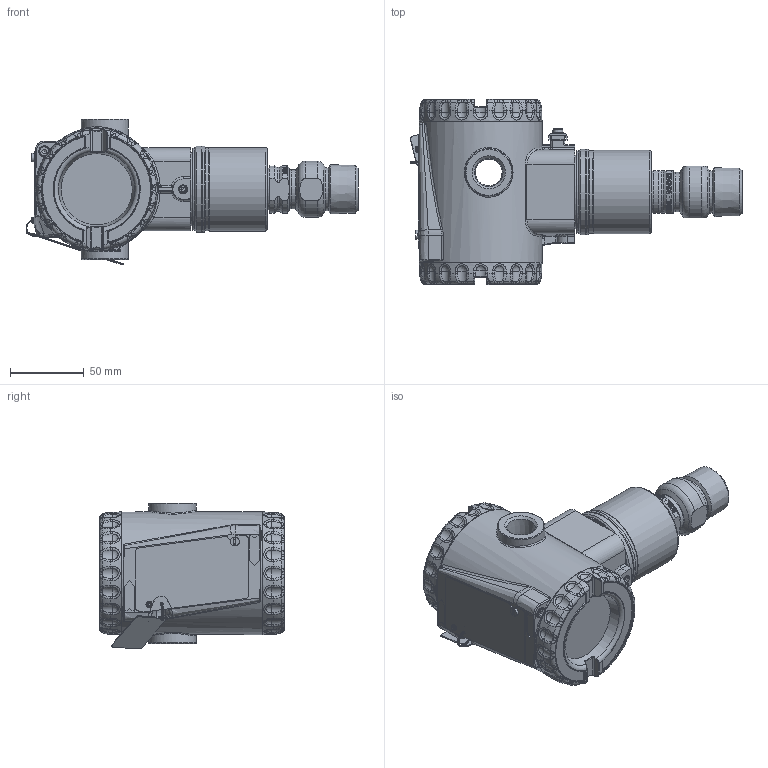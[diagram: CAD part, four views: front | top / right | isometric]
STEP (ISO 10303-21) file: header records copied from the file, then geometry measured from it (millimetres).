
FILE_DESCRIPTION(/* description */ (''),/* implementation_level */ '2;1');
FILE_NAME(/* name */ 'F:\Area\Desenvolvimento_2\Projects\Sensor\projetos\LD400-3d\dimensionais 3D clientes\LD400G\LD400G4 1 NPT SELADO.stp',/* time_stamp */ '2023-02-02T16:44:38-03:00',/* author */ ('inventor02'),/* organization */ (''),/* preprocessor_version */ 'ST-DEVELOPER v17',/* originating_system */ 'Autodesk Inventor 2019',/* authorisation */ '');
FILE_SCHEMA (('CONFIG_CONTROL_DESIGN'));
Products named in the file (28): LD400G4 1 NPT SELADO; SENSOR 29X FX4 1NPT macho selado; 101-B-5896-01 capa fx4; 101-C-3677-06 conexao ao processo 1-2NPT; 101-D-1309-04 pescoço LD29x usinado; 101-C-3962-04 - X - 1NPT selado; DIAFRAGMA CORRUGADO D27-5; Carcaça 400 com tampas e plaqueta sem letras; 101-D-0845-05 carcaça LD400 sem letras; 101-B-3614-03-tampa 400 sem letras; Tampa visor 400 montada sem letras; 101-B-3612-05 tampa visor 400 sem letras; 101-A-6107; oring 2034; 00034775-0; WHW_250; DIN 915 - M6 x 10; Chapa aterramento externo; 201-A-1771-02 inserto terra recartilhado; AS 1969 - ST4,2; ISO 1207 - M4 x 8; ANSI B18.3.1M - M4x0,7 x 8; Subconjunto plaqueta 400; plaqueta 400 em branco; Parafuso da Plaqueta; Rebite da Plaqueta; 096-A-0169-03; 101-A-0502-01
Assembly tree (29 placements, depth 4):
  LD400G4 1 NPT SELADO
    SENSOR 29X FX4 1NPT macho selado
      101-B-5896-01 capa fx4
      101-C-3677-06 conexao ao processo 1-2NPT
      101-D-1309-04 pescoço LD29x usinado
      DIN 915 - M6 x 10
      101-C-3962-04 - X - 1NPT selado
      DIAFRAGMA CORRUGADO D27-5
    Carcaça 400 com tampas e plaqueta sem letras
      101-D-0845-05 carcaça LD400 sem letras
      101-B-3614-03-tampa 400 sem letras
      Tampa visor 400 montada sem letras
        101-B-3612-05 tampa visor 400 sem letras
        101-A-6107
        oring 2034
        00034775-0
        WHW_250
      DIN 915 - M6 x 10
      Chapa aterramento externo
      201-A-1771-02 inserto terra recartilhado
      AS 1969 - ST4,2
      ISO 1207 - M4 x 8
      ANSI B18.3.1M - M4x0,7 x 8  x2
      Subconjunto plaqueta 400
        plaqueta 400 em branco
        Parafuso da Plaqueta
        Rebite da Plaqueta
        096-A-0169-03
        101-A-0502-01
Bounding box: 224.55 x 125 x 98.64 mm (x, y, z)
Volume: 481477.6 mm3; surface area: 193593.6 mm2
Topology: 25 solids, 25 shells, 2027 faces, 5073 edges, 3115 vertices
Faces by surface type: plane 559, bspline 516, cylinder 447, torus 303, cone 147, sphere 55
Full cylindrical faces by diameter (mm): 2 x3, 2.1 x1, 2.2 x1, 2.459 x3, 2.5 x1, 2.7 x1, 3 x1, 3.2 x1, 3.242 x3, 3.5 x4, 3.571 x1, 4 x5, 4.3 x2, 4.4 x1, 4.917 x2, 6 x3, 6.1 x2, 6.2 x1, 7 x2, 7.6 x2, 17 x1, 17.5 x1, 18 x1, 18.3 x2, 26.5 x2, 27.5 x2, 28.399 x1, 29 x1, 32 x2, 32.2 x1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
Entity records: 78180 total; most frequent: CARTESIAN_POINT 31131, ORIENTED_EDGE 9906, DIRECTION 9297, EDGE_CURVE 4953, AXIS2_PLACEMENT_3D 3879, VERTEX_POINT 3063, CIRCLE 2251, EDGE_LOOP 2104
